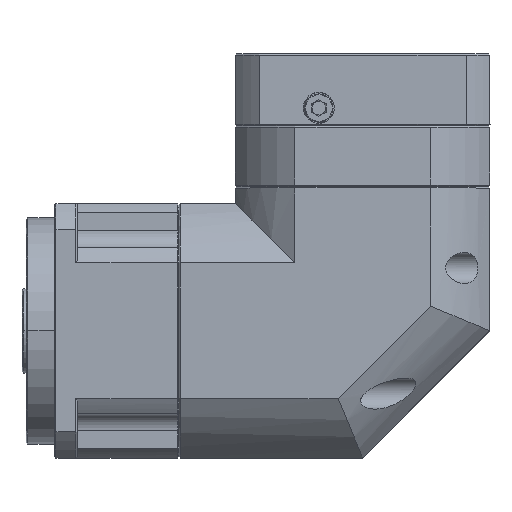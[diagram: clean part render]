
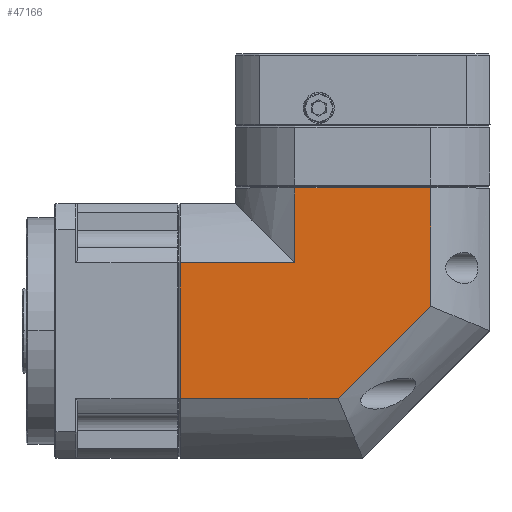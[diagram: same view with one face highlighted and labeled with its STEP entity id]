
A CAD part, top view. The second image highlights one B-rep face of the part: STEP entity #47166.
In plain terms, the highlighted planar face has unit normal (0, 0, 1).
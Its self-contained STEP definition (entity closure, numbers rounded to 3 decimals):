
#1360 = CARTESIAN_POINT ( 'NONE',  ( 143., 8.698, 45. ) ) ;
#1771 = VERTEX_POINT ( 'NONE', #22082 ) ;
#3945 = EDGE_LOOP ( 'NONE', ( #49060, #39409, #30175, #61386, #31297, #59502, #81821 ) ) ;
#3987 = VECTOR ( 'NONE', #81628, 1000. ) ;
#5223 = DIRECTION ( 'NONE',  ( -1., 0., 0. ) ) ;
#6112 = DIRECTION ( 'NONE',  ( 0., 1., 0. ) ) ;
#6793 = VECTOR ( 'NONE', #65226, 1000. ) ;
#8768 = VERTEX_POINT ( 'NONE', #63685 ) ;
#12406 = DIRECTION ( 'NONE',  ( 0.707, 0.707, 0. ) ) ;
#13590 = VECTOR ( 'NONE', #5223, 1000. ) ;
#14883 = EDGE_CURVE ( 'NONE', #30646, #8768, #76949, .T. ) ;
#16817 = AXIS2_PLACEMENT_3D ( 'NONE', #44678, #44962, #6112 ) ;
#17582 = CARTESIAN_POINT ( 'NONE',  ( 98.75, -24., 45. ) ) ;
#17647 = EDGE_CURVE ( 'NONE', #23024, #79747, #57623, .T. ) ;
#18273 = CARTESIAN_POINT ( 'NONE',  ( 95., 13.25, 45. ) ) ;
#19534 = CARTESIAN_POINT ( 'NONE',  ( 54.5, 0., 45. ) ) ;
#21387 = LINE ( 'NONE', #23010, #3987 ) ;
#22082 = CARTESIAN_POINT ( 'NONE',  ( 143., 50.5, 45. ) ) ;
#22288 = VECTOR ( 'NONE', #77101, 1000. ) ;
#23010 = CARTESIAN_POINT ( 'NONE',  ( 143., 13.25, 45. ) ) ;
#23024 = VERTEX_POINT ( 'NONE', #41538 ) ;
#23026 = DIRECTION ( 'NONE',  ( 1., 0., 0. ) ) ;
#28240 = DIRECTION ( 'NONE',  ( -1., 0., 0. ) ) ;
#28556 = CARTESIAN_POINT ( 'NONE',  ( 95., 24., 45. ) ) ;
#29131 = EDGE_CURVE ( 'NONE', #23024, #8768, #37433, .T. ) ;
#30175 = ORIENTED_EDGE ( 'NONE', *, *, #60023, .T. ) ;
#30646 = VERTEX_POINT ( 'NONE', #28556 ) ;
#31190 = LINE ( 'NONE', #53391, #82359 ) ;
#31297 = ORIENTED_EDGE ( 'NONE', *, *, #14883, .T. ) ;
#31578 = CARTESIAN_POINT ( 'NONE',  ( 98.75, 24., 45. ) ) ;
#31915 = EDGE_CURVE ( 'NONE', #41440, #1771, #21387, .T. ) ;
#32059 = VECTOR ( 'NONE', #23026, 1000. ) ;
#32088 = VECTOR ( 'NONE', #12406, 1000. ) ;
#32686 = EDGE_CURVE ( 'NONE', #51983, #30646, #55025, .T. ) ;
#35013 = CARTESIAN_POINT ( 'NONE',  ( 95., 50.5, 45. ) ) ;
#36143 = FACE_OUTER_BOUND ( 'NONE', #3945, .T. ) ;
#37433 = LINE ( 'NONE', #19534, #6793 ) ;
#37525 = CARTESIAN_POINT ( 'NONE',  ( 110.302, -24., 45. ) ) ;
#39409 = ORIENTED_EDGE ( 'NONE', *, *, #31915, .T. ) ;
#41440 = VERTEX_POINT ( 'NONE', #1360 ) ;
#41538 = CARTESIAN_POINT ( 'NONE',  ( 54.5, -24., 45. ) ) ;
#44678 = CARTESIAN_POINT ( 'NONE',  ( 54.5, -24., 45. ) ) ;
#44962 = DIRECTION ( 'NONE',  ( 0., 0., -1. ) ) ;
#47141 = EDGE_CURVE ( 'NONE', #79747, #41440, #57643, .T. ) ;
#47166 = ADVANCED_FACE ( 'NONE', ( #36143 ), #78116, .F. ) ;
#49060 = ORIENTED_EDGE ( 'NONE', *, *, #47141, .T. ) ;
#51983 = VERTEX_POINT ( 'NONE', #35013 ) ;
#53391 = CARTESIAN_POINT ( 'NONE',  ( 98.75, 50.5, 45. ) ) ;
#55025 = LINE ( 'NONE', #18273, #22288 ) ;
#57623 = LINE ( 'NONE', #17582, #32059 ) ;
#57643 = LINE ( 'NONE', #84426, #32088 ) ;
#59502 = ORIENTED_EDGE ( 'NONE', *, *, #29131, .F. ) ;
#60023 = EDGE_CURVE ( 'NONE', #1771, #51983, #31190, .T. ) ;
#61386 = ORIENTED_EDGE ( 'NONE', *, *, #32686, .T. ) ;
#63685 = CARTESIAN_POINT ( 'NONE',  ( 54.5, 24., 45. ) ) ;
#65226 = DIRECTION ( 'NONE',  ( 0., 1., 0. ) ) ;
#76949 = LINE ( 'NONE', #31578, #13590 ) ;
#77101 = DIRECTION ( 'NONE',  ( 0., -1., 0. ) ) ;
#78116 = PLANE ( 'NONE',  #16817 ) ;
#79747 = VERTEX_POINT ( 'NONE', #37525 ) ;
#81628 = DIRECTION ( 'NONE',  ( 0., 1., 0. ) ) ;
#81821 = ORIENTED_EDGE ( 'NONE', *, *, #17647, .T. ) ;
#82359 = VECTOR ( 'NONE', #28240, 1000. ) ;
#84426 = CARTESIAN_POINT ( 'NONE',  ( 110.302, -24., 45. ) ) ;
